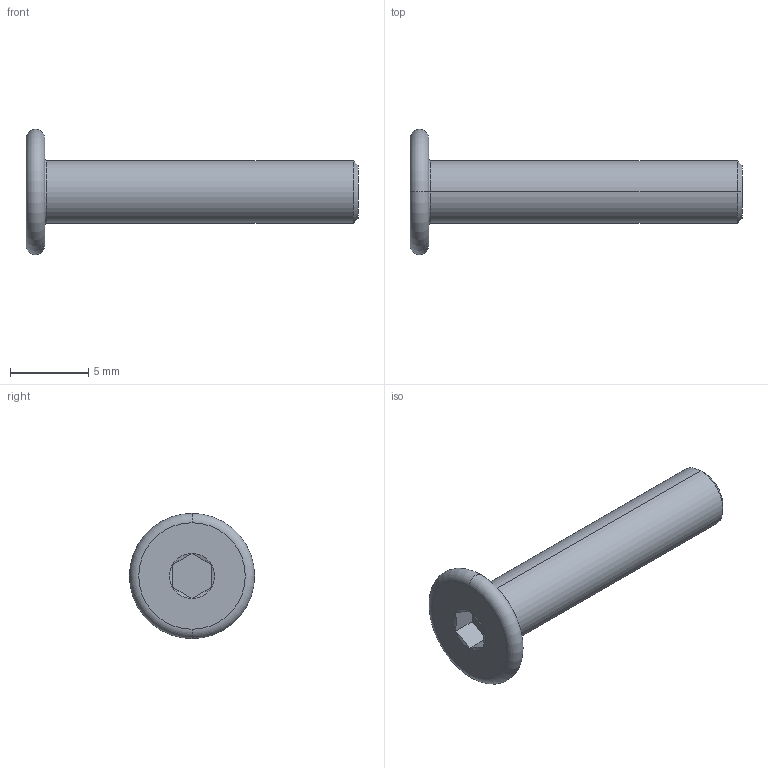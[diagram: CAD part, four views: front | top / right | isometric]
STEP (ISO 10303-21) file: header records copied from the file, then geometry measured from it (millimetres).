
FILE_DESCRIPTION (( 'STEP AP203' ), '1' );
FILE_NAME ('LGD-304M-M4x20.STEP', '2026-08-13T10:08:51', ( '' ), ( '' ), 'SwSTEP 2.0', 'SolidWorks 2020', '' );
FILE_SCHEMA (( 'CONFIG_CONTROL_DESIGN' ));
Length unit declared in the file: millimetre
Products named in the file (1): LGD-304M-M4x20
Bounding box: 21.2 x 8 x 8 mm (x, y, z)
Volume: 299.2 mm3; surface area: 378.6 mm2
Topology: 1 solids, 1 shells, 24 faces, 44 edges, 24 vertices
Faces by surface type: plane 10, cone 8, torus 4, cylinder 2
Entity records: 673 total; most frequent: CARTESIAN_POINT 119, DIRECTION 110, ORIENTED_EDGE 88, AXIS2_PLACEMENT_3D 47, EDGE_CURVE 44, EDGE_LOOP 26, FACE_OUTER_BOUND 24, ADVANCED_FACE 24
